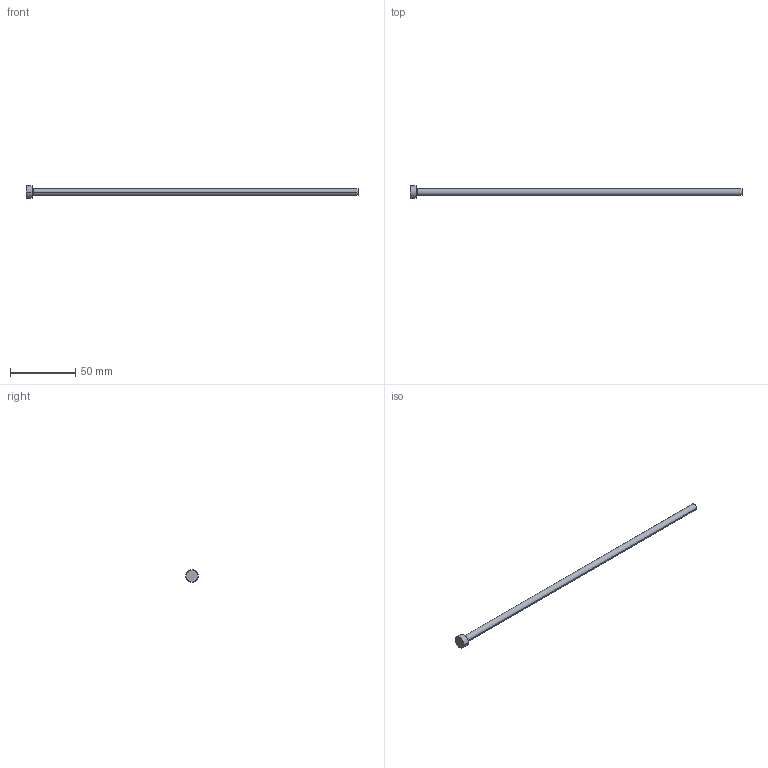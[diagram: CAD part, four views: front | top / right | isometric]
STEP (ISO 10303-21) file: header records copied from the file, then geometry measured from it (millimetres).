
FILE_DESCRIPTION (( 'STEP AP214' ), '1' );
FILE_NAME ('P14-10.STEP', '2020-03-11T18:25:00', ( '' ), ( '' ), 'SwSTEP 2.0', 'SolidWorks 2018', '' );
FILE_SCHEMA (( 'AUTOMOTIVE_DESIGN' ));
Length unit declared in the file: inch
Products named in the file (1): P14-10
Bounding box: 254 x 9.53 x 9.53 mm (x, y, z)
Volume: 5536.5 mm3; surface area: 4310.2 mm2
Topology: 1 solids, 1 shells, 13 faces, 24 edges, 14 vertices
Faces by surface type: cone 4, cylinder 4, plane 3, torus 2
Entity records: 366 total; most frequent: DIRECTION 68, CARTESIAN_POINT 52, ORIENTED_EDGE 48, AXIS2_PLACEMENT_3D 30, EDGE_CURVE 24, CIRCLE 16, EDGE_LOOP 14, VERTEX_POINT 14
